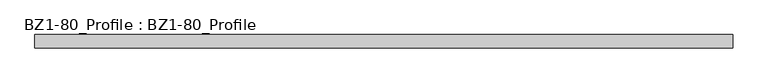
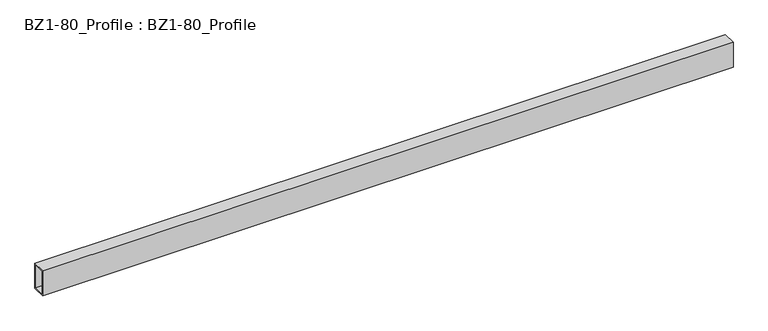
"""IFC4 building model written with IfcOpenShell, lengths in millimetres: beam geometry, BZ1-80_Profile : BZ1-80_Profile."""

from ifc_helpers import new_model, si_unit, frame, origin, place, context, project, spatial, polyline, outline, extrude, source, transform, mapped, element, save


def bz1_80_profile_bz1_80_profile_591577aa(model_context):
    return source(origin(), model_context, "Body", "SweptSolid", [
        extrude(outline(polyline([(-20.0, 40.0), (20.0, 40.0), (20.0, -40.0), (-20.0, -40.0), (-20.0, 40.0)]), holes=[polyline([(-16.0, 36.0), (-16.0, -36.0), (16.0, -36.0), (16.0, 36.0), (-16.0, 36.0)])]), frame((-1047.5, 0.0, 0.0), z_axis=(1.0, 0.0, 0.0), x_axis=(0.0, 1.0, 0.0)), (0.0, 0.0, 1.0), 2095.0),
    ])


if __name__ == "__main__":
    model = new_model("IFC4")
    model_context = context("Model", 3, world=origin())
    ifc_project = project(units=[si_unit("LENGTHUNIT", "METRE", prefix="MILLI")], contexts=[model_context])
    site = spatial("IfcSite", under=ifc_project)
    building = spatial("IfcBuilding", under=site)
    placement = place(None, origin())
    bz1_80_profile_bz1_80_profile_shape = bz1_80_profile_bz1_80_profile_591577aa(model_context)
    element("IfcBeam", 1, ObjectType="BZ1-80_Profile : BZ1-80_Profile", at=placement, inside=building, context=model_context, shape_type="MappedRepresentation", body=[
        mapped(bz1_80_profile_bz1_80_profile_shape, transform((0.0, 0.0, 0.0), x_axis=(1.0, 0.0, 0.0), y_axis=(0.0, 1.0, 0.0), z_axis=(0.0, 0.0, 1.0))),
    ])
    save(model, "model.ifc")
